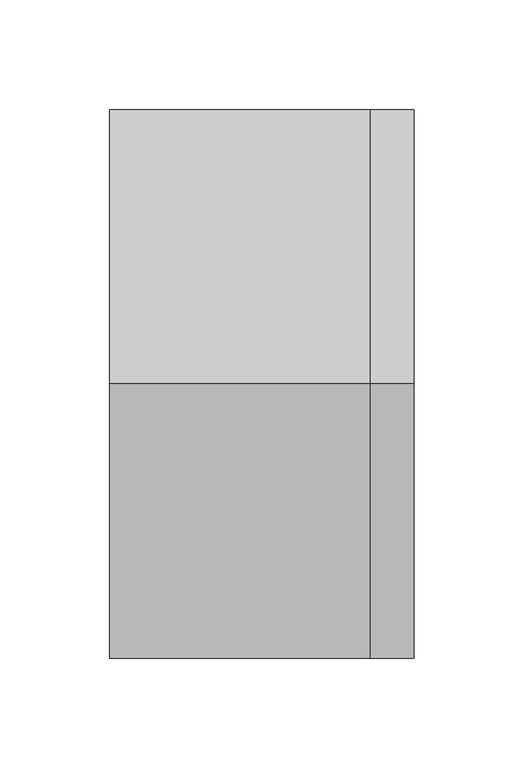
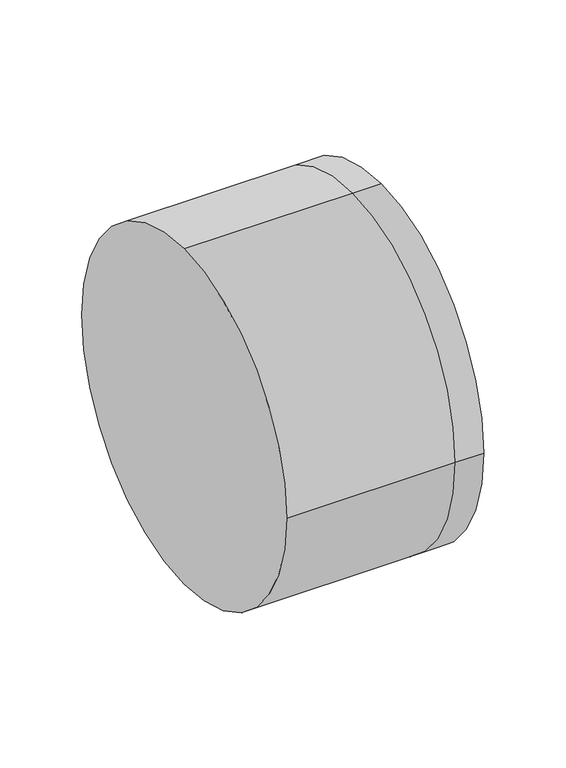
"""IFC4 building model written with IfcOpenShell, lengths in millimetres: duct fitting geometry, ADSK_ВрезкаВоздуховодов_Круглая : Стандарт."""

from ifc_helpers import new_model, si_unit, frame, origin, place, context, project, spatial, circle_curve, source, transform, mapped, element, save
from ifc_brep_helpers import plane_surface, cylinder_surface, advanced_brep


def duct_fitting_45c82917(model_context):
    return source(origin(), model_context, "Body", "AdvancedBrep", [
        advanced_brep(
        [(20.0, 0.0, 125.0), (20.0, -125.0, 0.0), (20.0, 0.0, -125.0), (20.0, 125.0, 0.0), (0.0, 0.0, 125.0), (0.0, -125.0, 0.0), (0.0, 0.0, -125.0), (0.0, 125.0, 0.0), (-118.904, 0.0, 125.0), (-118.904, 125.0, 0.0), (-118.904, 0.0, -125.0), (-118.904, -125.0, 0.0)],
        [
            (0, 1, circle_curve(frame((20.0, 0.0, 0.0), z_axis=(1.0, 0.0, 0.0), x_axis=(0.0, -1.0, 0.0)), 125.0)),
            (1, 2, circle_curve(frame((20.0, 0.0, 0.0), z_axis=(1.0, 0.0, 0.0), x_axis=(0.0, -1.0, 0.0)), 125.0)),
            (2, 3, circle_curve(frame((20.0, 0.0, 0.0), z_axis=(1.0, 0.0, 0.0), x_axis=(0.0, -1.0, 0.0)), 125.0)),
            (3, 0, circle_curve(frame((20.0, 0.0, 0.0), z_axis=(1.0, 0.0, 0.0), x_axis=(0.0, -1.0, 0.0)), 125.0)),
            (0, 4),
            (4, 5, circle_curve(frame((0.0, 0.0, 0.0), z_axis=(1.0, 0.0, 0.0), x_axis=(0.0, -1.0, 0.0)), 125.0)),
            (5, 1),
            (5, 6, circle_curve(frame((0.0, 0.0, 0.0), z_axis=(1.0, 0.0, 0.0), x_axis=(0.0, -1.0, 0.0)), 125.0)),
            (6, 2),
            (6, 7, circle_curve(frame((0.0, 0.0, 0.0), z_axis=(1.0, 0.0, 0.0), x_axis=(0.0, -1.0, 0.0)), 125.0)),
            (7, 3),
            (7, 4, circle_curve(frame((0.0, 0.0, 0.0), z_axis=(1.0, 0.0, 0.0), x_axis=(0.0, -1.0, 0.0)), 125.0)),
            (8, 9, circle_curve(frame((-118.904, 0.0, 0.0), z_axis=(-1.0, 0.0, 0.0), x_axis=(0.0, -1.0, 0.0)), 125.0)),
            (9, 10, circle_curve(frame((-118.904, 0.0, 0.0), z_axis=(-1.0, 0.0, 0.0), x_axis=(0.0, -1.0, 0.0)), 125.0)),
            (10, 11, circle_curve(frame((-118.904, 0.0, 0.0), z_axis=(-1.0, 0.0, 0.0), x_axis=(0.0, -1.0, 0.0)), 125.0)),
            (11, 8, circle_curve(frame((-118.904, 0.0, 0.0), z_axis=(-1.0, 0.0, 0.0), x_axis=(0.0, -1.0, 0.0)), 125.0)),
            (11, 5),
            (4, 8),
            (10, 6),
            (9, 7),
        ],
        [
            plane_surface(frame((20.0, 0.0, 0.0), z_axis=(1.0, 0.0, 0.0), x_axis=(0.0, 0.0, 1.0))),
            cylinder_surface(frame((0.0, 0.0, 0.0), z_axis=(-1.0, 0.0, 0.0), x_axis=(0.0, -1.0, 0.0)), 125.0),
            plane_surface(frame((-118.904, 0.0, 0.0), z_axis=(-1.0, 0.0, 0.0), x_axis=(0.0, 0.0, 1.0))),
            cylinder_surface(frame((-118.904, 0.0, 0.0), z_axis=(-1.0, 0.0, 0.0), x_axis=(0.0, -1.0, 0.0)), 125.0),
        ],
        [
            (0, [[1, 2, 3, 4]]),
            (1, [[5, 6, 7, -1]]),
            (1, [[-7, 8, 9, -2]]),
            (1, [[-9, 10, 11, -3]]),
            (1, [[-11, 12, -5, -4]]),
            (2, [[13, 14, 15, 16]]),
            (3, [[17, -6, 18, -16]]),
            (3, [[19, -8, -17, -15]]),
            (3, [[20, -10, -19, -14]]),
            (3, [[-18, -12, -20, -13]]),
        ],
    ),
    ])


if __name__ == "__main__":
    model = new_model("IFC4")
    model_context = context("Model", 3, world=origin())
    ifc_project = project(units=[si_unit("LENGTHUNIT", "METRE", prefix="MILLI")], contexts=[model_context])
    site = spatial("IfcSite", under=ifc_project)
    building = spatial("IfcBuilding", under=site)
    placement = place(None, origin())
    duct_fitting_shape = duct_fitting_45c82917(model_context)
    element("IfcDuctFitting", 1, ObjectType="ADSK_ВрезкаВоздуховодов_Круглая : Стандарт", at=placement, inside=building, context=model_context, shape_type="MappedRepresentation", body=[
        mapped(duct_fitting_shape, transform((0.0, 0.0, 0.0), x_axis=(1.0, 0.0, 0.0), y_axis=(0.0, 1.0, 0.0), z_axis=(0.0, 0.0, 1.0))),
    ])
    save(model, "model.ifc")
